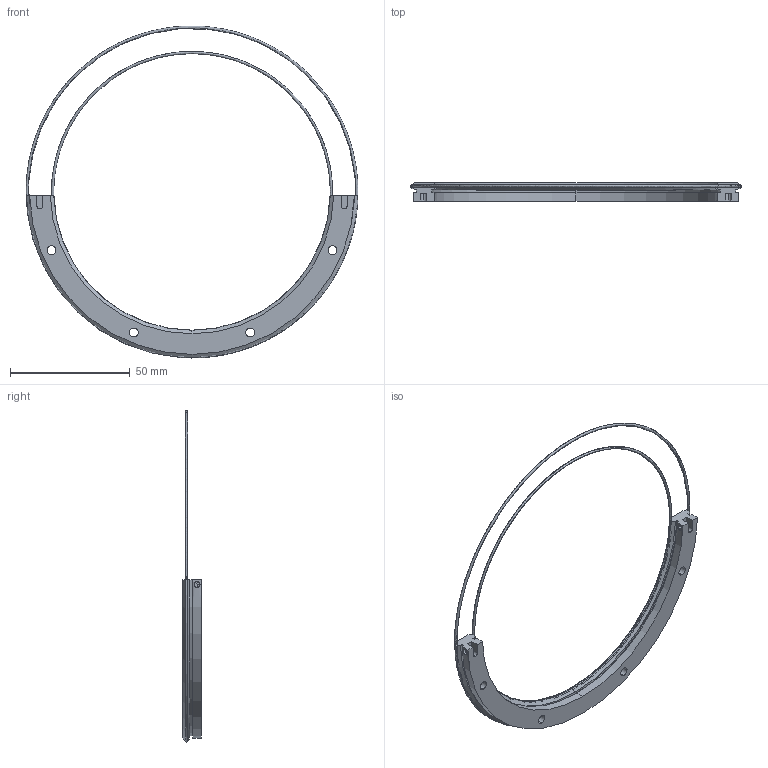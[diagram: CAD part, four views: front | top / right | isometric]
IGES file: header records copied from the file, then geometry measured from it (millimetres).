
Start section: 3D InterOp IGES (v. 2019 1.0.2), Spatial Corp. Copyright (c) 1999-2017.
Global section: file name: TR12 127 R180.igs; native system: Spatial Corp.; preprocessor: 3D InterOp GENERIC/IGES 3.0; author: Noname; organization: Noname; date: 20220628.092355; units: millimetre
Bounding box: 138.63 x 7.7 x 138.63 mm (x, y, z)
Surface area: 14286.3 mm2 (no closed solid volume)
Topology: 0 solids, 0 shells, 98 faces, 510 edges, 505 vertices
Faces by surface type: extrusion 50, revolution 48
